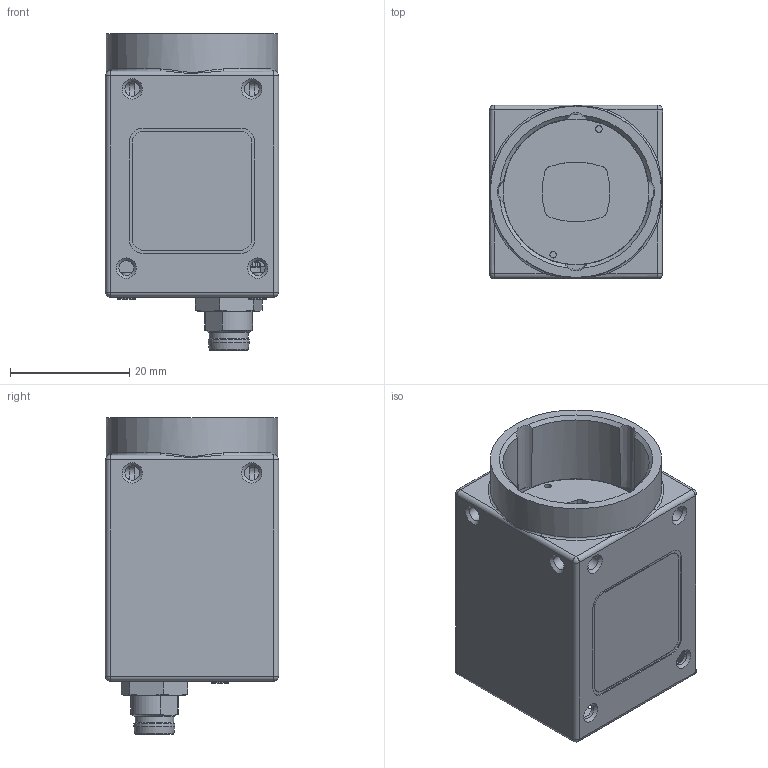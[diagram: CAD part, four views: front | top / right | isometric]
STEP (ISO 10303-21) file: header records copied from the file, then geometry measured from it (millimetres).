
FILE_DESCRIPTION( ( 'Unknown' ), '1' );
FILE_NAME( 'C:/Users/rih/Desktop/11184369_VCXU-22C.R.stp', 'Unknown', ( 'Unknown' ), ( 'Unknown' ), 'PSStep 19.0.9', 'Unknown', ' ' );
FILE_SCHEMA( ( 'AUTOMOTIVE_DESIGN { 1 0 10303 214 1 1 1 1 }' ) );
Length unit declared in the file: millimetre
Products named in the file (5): 11104603
Bounding box: 29 x 29 x 53 mm (x, y, z)
Volume: 10786.5 mm3; surface area: 15668.6 mm2
Topology: 5 solids, 9 shells, 1520 faces, 3944 edges, 2582 vertices
Faces by surface type: plane 908, cylinder 458, cone 71, torus 27, sphere 24, bspline 24, extrusion 8
Full cylindrical faces by diameter (mm): 0.217 x1, 0.5 x110, 0.6 x16, 0.7 x1, 0.9 x1, 1.1 x2, 1.4 x4, 1.567 x2, 1.6 x2, 1.9 x4, 2.459 x10, 3 x4, 6.5 x1, 6.9 x1, 8.4 x1, 9 x1, 9.4 x1, 19 x1, 24.4 x1, 26 x1, 28.7 x1
Entity records: 62615 total; most frequent: CARTESIAN_POINT 11983, DIRECTION 7206, ORIENTED_EDGE 7016, EDGE_CURVE 3508, AXIS2_PLACEMENT_3D 2555, VERTEX_POINT 2403, PRESENTATION_STYLE_ASSIGNMENT 2189, COLOUR_RGB 2189
